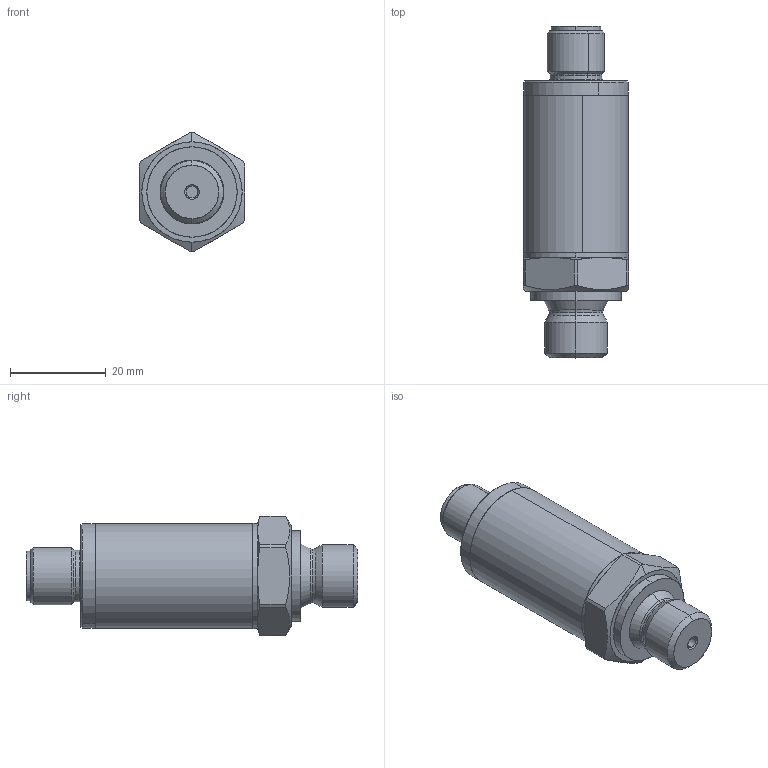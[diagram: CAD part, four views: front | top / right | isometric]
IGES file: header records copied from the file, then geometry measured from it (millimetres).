
Start section: SolidWorks IGES file using analytic representation for surfaces
Global section: file name: X:\Disegni Catalogo\Pressione\KS\3D\Iges 5.3\KS-N-A-Z-B01M-M-V.IGS; native system: SolidWorks 2012; preprocessor: SolidWorks 2012; author: giuseppe.cherchi; date: 120808.161932; units: millimetre
Bounding box: 22 x 69.5 x 25 mm (x, y, z)
Surface area: 14820 mm2 (no closed solid volume)
Topology: 0 solids, 0 shells, 1218 faces, 11578 edges, 11558 vertices
Faces by surface type: bspline 694, revolution 524
